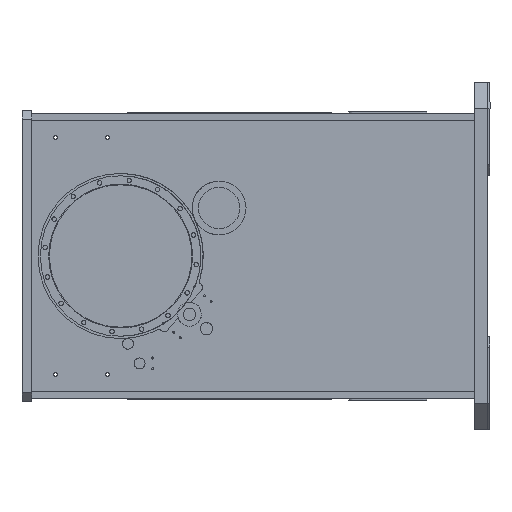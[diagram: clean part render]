
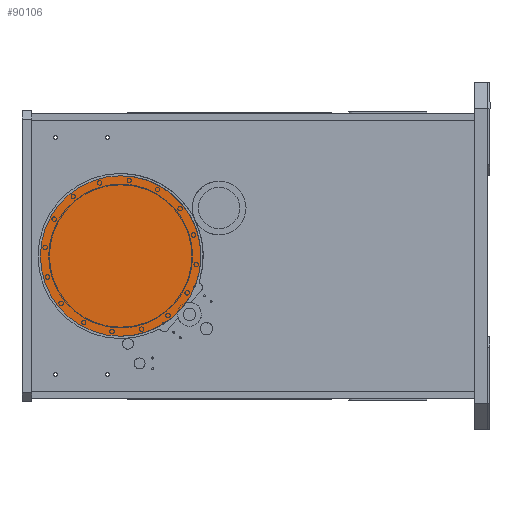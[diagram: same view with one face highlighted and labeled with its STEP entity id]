
A CAD part, left-side view. The second image highlights one B-rep face of the part: STEP entity #90106.
In plain terms, the highlighted planar face has unit normal (-1, 0, 0).
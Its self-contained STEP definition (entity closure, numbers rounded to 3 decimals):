
#82086 = FACE_OUTER_BOUND ( 'NONE', #90108, .T. ) ;
#82412 = DIRECTION ( 'NONE',  ( 0., 0., 1. ) ) ;
#82415 = DIRECTION ( 'NONE',  ( -1., 0., 0. ) ) ;
#82416 = AXIS2_PLACEMENT_3D ( 'NONE', #82424, #82415, #82412 ) ;
#82424 = CARTESIAN_POINT ( 'NONE',  ( -300.5, 845., 0. ) ) ;
#82425 = PLANE ( 'NONE',  #82416 ) ;
#82537 = DIRECTION ( 'NONE',  ( 0., 0., 1. ) ) ;
#82540 = DIRECTION ( 'NONE',  ( -1., 0., 0. ) ) ;
#82542 = CARTESIAN_POINT ( 'NONE',  ( -300.5, 845., 0. ) ) ;
#82543 = AXIS2_PLACEMENT_3D ( 'NONE', #82542, #82540, #82537 ) ;
#82546 = CIRCLE ( 'NONE', #82543, 184.662 ) ;
#84211 = EDGE_CURVE ( 'NONE', #84439, #84447, #132070, .T. ) ;
#84439 = VERTEX_POINT ( 'NONE', #132215 ) ;
#84447 = VERTEX_POINT ( 'NONE', #132343 ) ;
#89966 = ORIENTED_EDGE ( 'NONE', *, *, #84211, .T. ) ;
#90080 = ORIENTED_EDGE ( 'NONE', *, *, #90084, .T. ) ;
#90084 = EDGE_CURVE ( 'NONE', #84447, #84439, #82546, .T. ) ;
#90106 = ADVANCED_FACE ( 'NONE', ( #82086 ), #82425, .T. ) ;
#90108 = EDGE_LOOP ( 'NONE', ( #90080, #89966 ) ) ;
#132061 = DIRECTION ( 'NONE',  ( 0., 0., 1. ) ) ;
#132062 = DIRECTION ( 'NONE',  ( -1., 0., 0. ) ) ;
#132063 = CARTESIAN_POINT ( 'NONE',  ( -300.5, 845., 0. ) ) ;
#132064 = AXIS2_PLACEMENT_3D ( 'NONE', #132063, #132062, #132061 ) ;
#132070 = CIRCLE ( 'NONE', #132064, 184.662 ) ;
#132215 = CARTESIAN_POINT ( 'NONE',  ( -300.5, 845., 184.662 ) ) ;
#132343 = CARTESIAN_POINT ( 'NONE',  ( -300.5, 845., -184.662 ) ) ;
